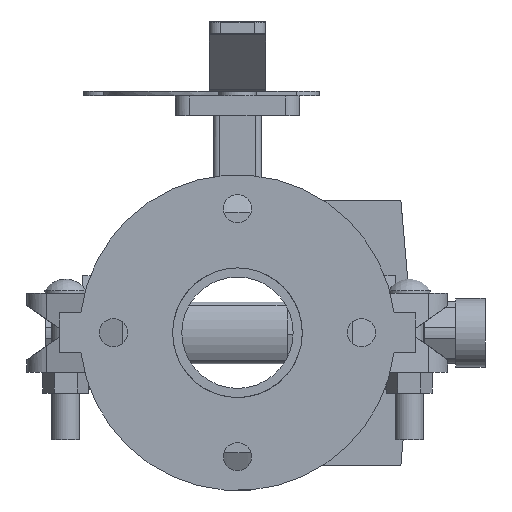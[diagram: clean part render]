
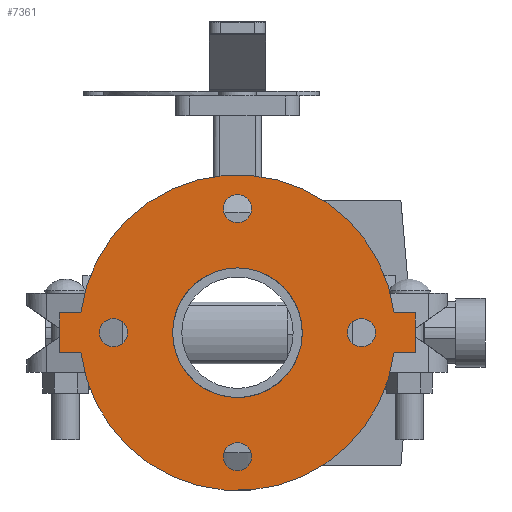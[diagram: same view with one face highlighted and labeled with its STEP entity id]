
A CAD part, front view. The second image highlights one B-rep face of the part: STEP entity #7361.
In plain terms, the highlighted planar face has unit normal (0, -1, 0) as drawn and (0, 0, -1) by its records, which use the part's own axes.
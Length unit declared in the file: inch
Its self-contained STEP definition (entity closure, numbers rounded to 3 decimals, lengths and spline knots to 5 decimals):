
#169=FACE_BOUND('',#903,.T.);
#170=FACE_BOUND('',#904,.T.);
#171=FACE_BOUND('',#905,.T.);
#172=FACE_BOUND('',#906,.T.);
#173=FACE_BOUND('',#907,.T.);
#258=PLANE('',#7982);
#495=FACE_OUTER_BOUND('',#902,.T.);
#902=EDGE_LOOP('',(#4708,#4709,#4710,#4711,#4712,#4713,#4714,#4715));
#903=EDGE_LOOP('',(#4716));
#904=EDGE_LOOP('',(#4717));
#905=EDGE_LOOP('',(#4718));
#906=EDGE_LOOP('',(#4719));
#907=EDGE_LOOP('',(#4720,#4721));
#1398=LINE('',#11185,#1956);
#1399=LINE('',#11187,#1957);
#1400=LINE('',#11189,#1958);
#1401=LINE('',#11193,#1959);
#1402=LINE('',#11195,#1960);
#1403=LINE('',#11196,#1961);
#1956=VECTOR('',#8880,0.3937);
#1957=VECTOR('',#8881,0.3937);
#1958=VECTOR('',#8882,0.3937);
#1959=VECTOR('',#8885,0.3937);
#1960=VECTOR('',#8886,0.3937);
#1961=VECTOR('',#8887,0.3937);
#2511=CIRCLE('',#7972,0.3125);
#2513=CIRCLE('',#7975,0.3125);
#2515=CIRCLE('',#7978,0.3125);
#2517=CIRCLE('',#7981,0.3125);
#2518=CIRCLE('',#7983,3.5);
#2519=CIRCLE('',#7984,3.5);
#2520=CIRCLE('',#7985,1.4375);
#2521=CIRCLE('',#7986,1.4375);
#2937=VERTEX_POINT('',#11159);
#2939=VERTEX_POINT('',#11165);
#2941=VERTEX_POINT('',#11171);
#2943=VERTEX_POINT('',#11177);
#2944=VERTEX_POINT('',#11181);
#2945=VERTEX_POINT('',#11182);
#2946=VERTEX_POINT('',#11184);
#2947=VERTEX_POINT('',#11186);
#2948=VERTEX_POINT('',#11188);
#2949=VERTEX_POINT('',#11190);
#2950=VERTEX_POINT('',#11192);
#2951=VERTEX_POINT('',#11194);
#2952=VERTEX_POINT('',#11197);
#2953=VERTEX_POINT('',#11198);
#3643=EDGE_CURVE('',#2937,#2937,#2511,.T.);
#3646=EDGE_CURVE('',#2939,#2939,#2513,.T.);
#3649=EDGE_CURVE('',#2941,#2941,#2515,.T.);
#3652=EDGE_CURVE('',#2943,#2943,#2517,.T.);
#3653=EDGE_CURVE('',#2944,#2945,#2518,.T.);
#3654=EDGE_CURVE('',#2945,#2946,#1398,.T.);
#3655=EDGE_CURVE('',#2946,#2947,#1399,.T.);
#3656=EDGE_CURVE('',#2947,#2948,#1400,.T.);
#3657=EDGE_CURVE('',#2948,#2949,#2519,.T.);
#3658=EDGE_CURVE('',#2949,#2950,#1401,.T.);
#3659=EDGE_CURVE('',#2950,#2951,#1402,.T.);
#3660=EDGE_CURVE('',#2951,#2944,#1403,.T.);
#3661=EDGE_CURVE('',#2952,#2953,#2520,.T.);
#3662=EDGE_CURVE('',#2953,#2952,#2521,.T.);
#4708=ORIENTED_EDGE('',*,*,#3653,.T.);
#4709=ORIENTED_EDGE('',*,*,#3654,.T.);
#4710=ORIENTED_EDGE('',*,*,#3655,.T.);
#4711=ORIENTED_EDGE('',*,*,#3656,.T.);
#4712=ORIENTED_EDGE('',*,*,#3657,.T.);
#4713=ORIENTED_EDGE('',*,*,#3658,.T.);
#4714=ORIENTED_EDGE('',*,*,#3659,.T.);
#4715=ORIENTED_EDGE('',*,*,#3660,.T.);
#4716=ORIENTED_EDGE('',*,*,#3643,.T.);
#4717=ORIENTED_EDGE('',*,*,#3646,.T.);
#4718=ORIENTED_EDGE('',*,*,#3649,.T.);
#4719=ORIENTED_EDGE('',*,*,#3652,.T.);
#4720=ORIENTED_EDGE('',*,*,#3661,.T.);
#4721=ORIENTED_EDGE('',*,*,#3662,.T.);
#7361=ADVANCED_FACE('',(#495,#169,#170,#171,#172,#173),#258,.T.);
#7972=AXIS2_PLACEMENT_3D('',#11161,#8853,#8854);
#7975=AXIS2_PLACEMENT_3D('',#11167,#8860,#8861);
#7978=AXIS2_PLACEMENT_3D('',#11173,#8867,#8868);
#7981=AXIS2_PLACEMENT_3D('',#11179,#8874,#8875);
#7982=AXIS2_PLACEMENT_3D('',#11180,#8876,#8877);
#7983=AXIS2_PLACEMENT_3D('',#11183,#8878,#8879);
#7984=AXIS2_PLACEMENT_3D('',#11191,#8883,#8884);
#7985=AXIS2_PLACEMENT_3D('',#11199,#8888,#8889);
#7986=AXIS2_PLACEMENT_3D('',#11200,#8890,#8891);
#8853=DIRECTION('center_axis',(0.,0.,1.));
#8854=DIRECTION('ref_axis',(0.,1.,0.));
#8860=DIRECTION('center_axis',(0.,0.,1.));
#8861=DIRECTION('ref_axis',(1.,0.,0.));
#8867=DIRECTION('center_axis',(0.,0.,1.));
#8868=DIRECTION('ref_axis',(0.,-1.,0.));
#8874=DIRECTION('center_axis',(0.,0.,1.));
#8875=DIRECTION('ref_axis',(-1.,0.,0.));
#8876=DIRECTION('center_axis',(0.,0.,-1.));
#8877=DIRECTION('ref_axis',(-1.,0.,0.));
#8878=DIRECTION('center_axis',(0.,0.,-1.));
#8879=DIRECTION('ref_axis',(-1.,0.,0.));
#8880=DIRECTION('',(0.,1.,0.));
#8881=DIRECTION('',(1.,0.,0.));
#8882=DIRECTION('',(0.,-1.,0.));
#8883=DIRECTION('center_axis',(0.,0.,-1.));
#8884=DIRECTION('ref_axis',(-1.,0.,0.));
#8885=DIRECTION('',(0.,-1.,0.));
#8886=DIRECTION('',(-1.,0.,0.));
#8887=DIRECTION('',(0.,1.,0.));
#8888=DIRECTION('center_axis',(0.,0.,1.));
#8889=DIRECTION('ref_axis',(-1.,0.,0.));
#8890=DIRECTION('center_axis',(0.,0.,1.));
#8891=DIRECTION('ref_axis',(-1.,0.,0.));
#11159=CARTESIAN_POINT('',(0.,2.4375,-0.44));
#11161=CARTESIAN_POINT('Origin',(0.,2.75,-0.44));
#11165=CARTESIAN_POINT('',(2.4375,0.,-0.44));
#11167=CARTESIAN_POINT('Origin',(2.75,0.,-0.44));
#11171=CARTESIAN_POINT('',(0.,-2.4375,-0.44));
#11173=CARTESIAN_POINT('Origin',(0.,-2.75,-0.44));
#11177=CARTESIAN_POINT('',(-2.4375,0.,-0.44));
#11179=CARTESIAN_POINT('Origin',(-2.75,0.,-0.44));
#11180=CARTESIAN_POINT('Origin',(0.,0.,-0.44));
#11181=CARTESIAN_POINT('',(-0.44,-3.47223,-0.44));
#11182=CARTESIAN_POINT('',(-0.44,3.47223,-0.44));
#11183=CARTESIAN_POINT('Origin',(0.,0.,-0.44));
#11184=CARTESIAN_POINT('',(-0.44,3.94,-0.44));
#11185=CARTESIAN_POINT('',(-0.44,-3.94,-0.44));
#11186=CARTESIAN_POINT('',(0.44,3.94,-0.44));
#11187=CARTESIAN_POINT('',(-0.44,3.94,-0.44));
#11188=CARTESIAN_POINT('',(0.44,3.47223,-0.44));
#11189=CARTESIAN_POINT('',(0.44,3.94,-0.44));
#11190=CARTESIAN_POINT('',(0.44,-3.47223,-0.44));
#11191=CARTESIAN_POINT('Origin',(0.,0.,-0.44));
#11192=CARTESIAN_POINT('',(0.44,-3.94,-0.44));
#11193=CARTESIAN_POINT('',(0.44,3.94,-0.44));
#11194=CARTESIAN_POINT('',(-0.44,-3.94,-0.44));
#11195=CARTESIAN_POINT('',(0.44,-3.94,-0.44));
#11196=CARTESIAN_POINT('',(-0.44,-3.94,-0.44));
#11197=CARTESIAN_POINT('',(0.44,1.36851,-0.44));
#11198=CARTESIAN_POINT('',(1.4375,0.,-0.44));
#11199=CARTESIAN_POINT('Origin',(0.,0.,-0.44));
#11200=CARTESIAN_POINT('Origin',(0.,0.,-0.44));
